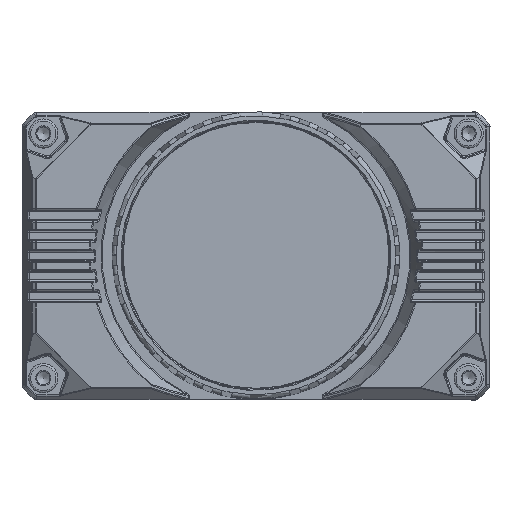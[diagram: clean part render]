
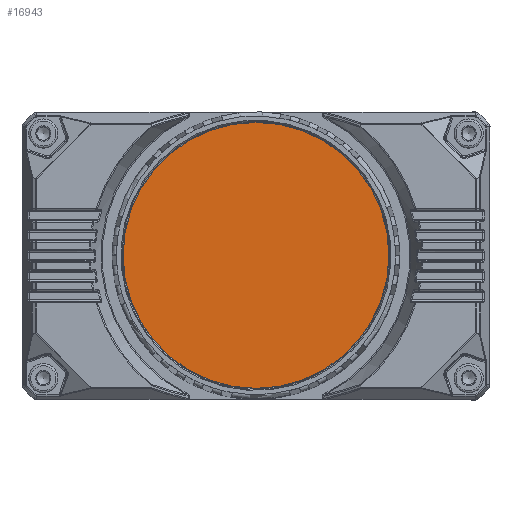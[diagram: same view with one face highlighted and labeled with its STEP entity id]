
A CAD part, top view. The second image highlights one B-rep face of the part: STEP entity #16943.
In plain terms, the highlighted planar face has unit normal (0, 0, 1).
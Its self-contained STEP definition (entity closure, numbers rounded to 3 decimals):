
#11684=CIRCLE('',#62591,25.);
#16943=ADVANCED_FACE('',(#21272),#18520,.T.);
#18520=PLANE('',#62594);
#21272=FACE_OUTER_BOUND('',#24643,.T.);
#24643=EDGE_LOOP('',(#38453));
#38453=ORIENTED_EDGE('',*,*,#50947,.T.);
#44035=VERTEX_POINT('',#115859);
#50947=EDGE_CURVE('',#44035,#44035,#11684,.T.);
#62591=AXIS2_PLACEMENT_3D('',#115858,#75386,#75387);
#62594=AXIS2_PLACEMENT_3D('',#115863,#75392,#75393);
#75386=DIRECTION('',(0.,0.,1.));
#75387=DIRECTION('',(-0.174,0.985,0.));
#75392=DIRECTION('',(0.,0.,1.));
#75393=DIRECTION('',(0.174,-0.985,0.));
#115858=CARTESIAN_POINT('',(0.,0.,100.8));
#115859=CARTESIAN_POINT('',(-4.341,24.62,100.8));
#115863=CARTESIAN_POINT('',(0.,0.,100.8));
